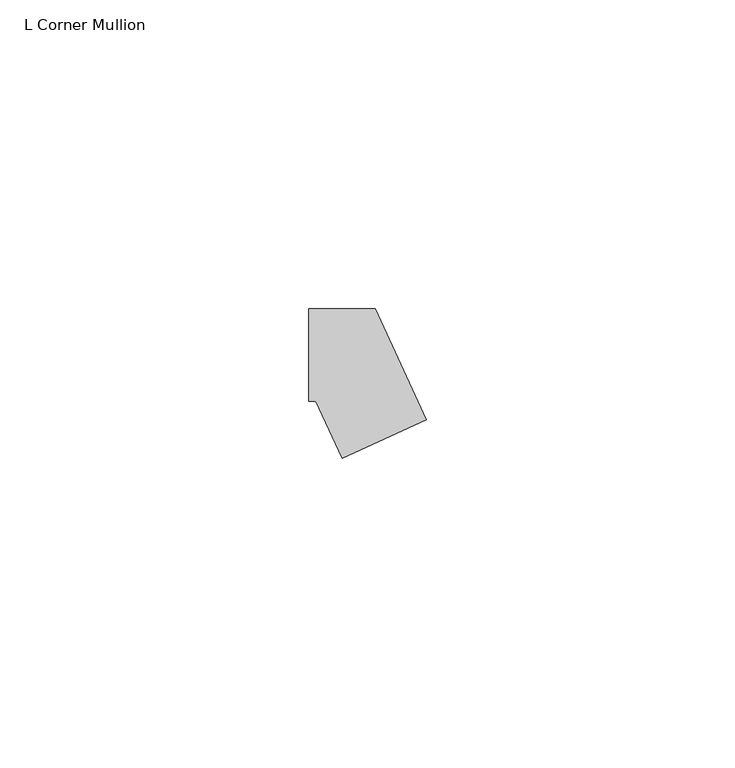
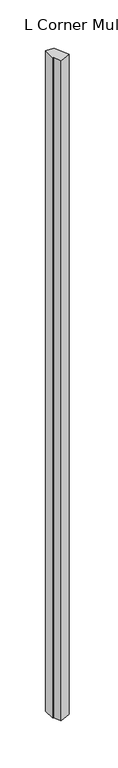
"""IFC4 building model written with IfcOpenShell, lengths in millimetres: member geometry, L Corner Mullion : ARQ_HERR_15X6mm."""

from ifc_helpers import new_model, si_unit, frame, origin, place, context, project, spatial, polyline, outline, extrude, source, transform, mapped, element, save


def l_corner_mullion_3361ea78(model_context):
    return source(origin(), model_context, "Body", "SweptSolid", [
        extrude(outline(polyline([(-0.5775282, -16.7605627), (-4.8156946, -7.5), (-6.0, -7.5), (-6.0, 7.5), (4.8156946, 7.5), (13.0619332, -10.5183601), (-0.5775282, -16.7605627)])), frame((0.0, 0.0, -878.0436542), z_axis=(0.0, 0.0, 1.0), x_axis=(1.0, 0.0, 0.0)), (0.0, 0.0, 1.0), 878.0436542),
    ])


if __name__ == "__main__":
    model = new_model("IFC4")
    model_context = context("Model", 3, world=origin())
    ifc_project = project(units=[si_unit("LENGTHUNIT", "METRE", prefix="MILLI")], contexts=[model_context])
    site = spatial("IfcSite", under=ifc_project)
    building = spatial("IfcBuilding", under=site)
    placement = place(None, origin())
    l_corner_mullion_shape = l_corner_mullion_3361ea78(model_context)
    element("IfcMember", 1, ObjectType="L Corner Mullion : ARQ_HERR_15X6mm", at=placement, inside=building, context=model_context, shape_type="MappedRepresentation", body=[
        mapped(l_corner_mullion_shape, transform((0.0, 0.0, 0.0), x_axis=(1.0, 0.0, 0.0), y_axis=(0.0, 1.0, 0.0), z_axis=(0.0, 0.0, 1.0))),
    ])
    save(model, "model.ifc")
